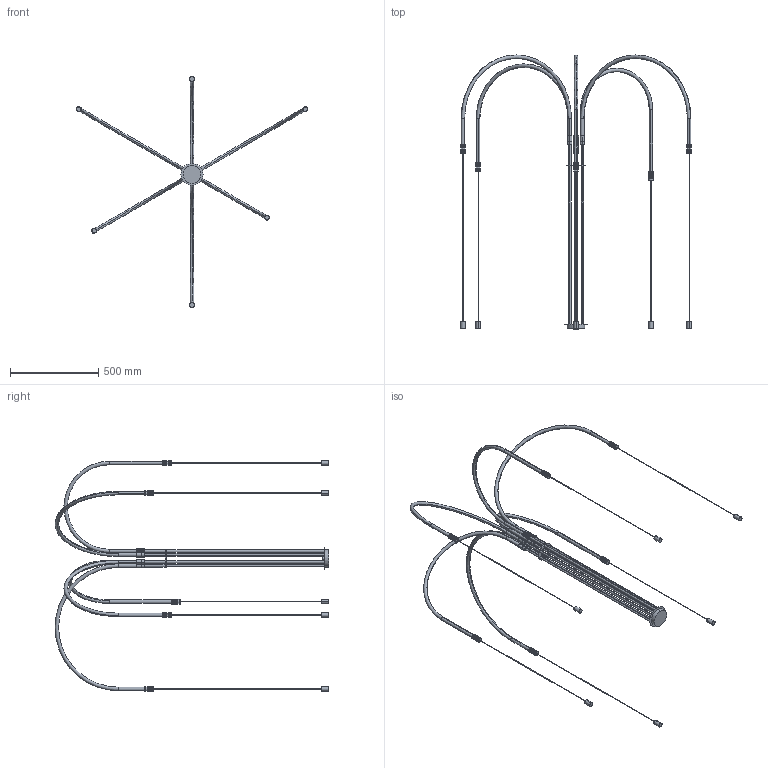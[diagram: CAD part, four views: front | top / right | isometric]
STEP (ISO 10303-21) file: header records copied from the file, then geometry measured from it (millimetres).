
FILE_DESCRIPTION (( 'STEP AP214' ), '1' );
FILE_NAME ('CRAM_C_1329_6.STEP', '2024-09-18T07:17:49', ( '' ), ( '' ), 'SwSTEP 2.0', 'SolidWorks 2018', '' );
FILE_SCHEMA (( 'AUTOMOTIVE_DESIGN' ));
Length unit declared in the file: millimetre
Products named in the file (1): CRAM_C_1329_6
Bounding box: 1311.14 x 1555 x 1309.77 mm (x, y, z)
Volume: 4125007.8 mm3; surface area: 1012398.4 mm2
Topology: 52 solids, 52 shells, 936 faces, 2428 edges, 1616 vertices
Faces by surface type: plane 668, cylinder 256, torus 12
Entity records: 29029 total; most frequent: CARTESIAN_POINT 4981, ORIENTED_EDGE 4856, DIRECTION 4842, EDGE_CURVE 2428, LINE 1888, VECTOR 1888, VERTEX_POINT 1616, AXIS2_PLACEMENT_3D 1477
